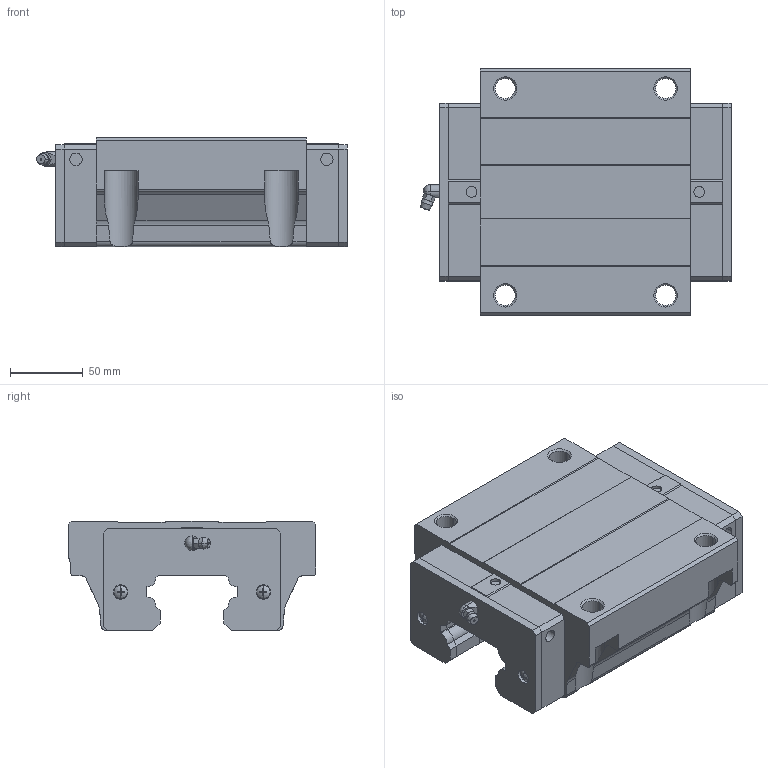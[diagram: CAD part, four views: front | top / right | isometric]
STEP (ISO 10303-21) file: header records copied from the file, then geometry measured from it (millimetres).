
FILE_DESCRIPTION(('starvars output'),'2;1');
FILE_NAME('cv20190610060742000016470.stp','06:07:42 2019/06/10',( 'Thomas Industrial Network Germany GmbH'),( 'Thomas Industrial Network Germany GmbH'),'unknown preprocess','ACIS' ,'unknown authorization');
FILE_SCHEMA(('CONFIG_CONTROL_DESIGN {UNKNOWN IMPLEMENTATION LEVEL}'));
Length unit declared in the file: millimetre
Products named in the file (10): PRODUCT_ID_1; PRODUCT_ID_2; PRODUCT_ID_3; PRODUCT_ID_4; PRODUCT_ID_5; PRODUCT_ID_6; PRODUCT_ID_7; PRODUCT_ID_8; PRODUCT_ID_9; PRODUCT_ID_10
Bounding box: 213.1 x 170 x 75 mm (x, y, z)
Volume: 1653400 mm3; surface area: 188264.3 mm2
Topology: 10 solids, 10 shells, 422 faces, 1099 edges, 707 vertices
Faces by surface type: plane 267, cylinder 81, cone 62, sphere 12
Entity records: 12450 total; most frequent: ORIENTED_EDGE 2190, CARTESIAN_POINT 2179, DIRECTION 1675, EDGE_CURVE 1095, VERTEX_POINT 707, VECTOR 677, LINE 677, AXIS2_PLACEMENT_3D 499
